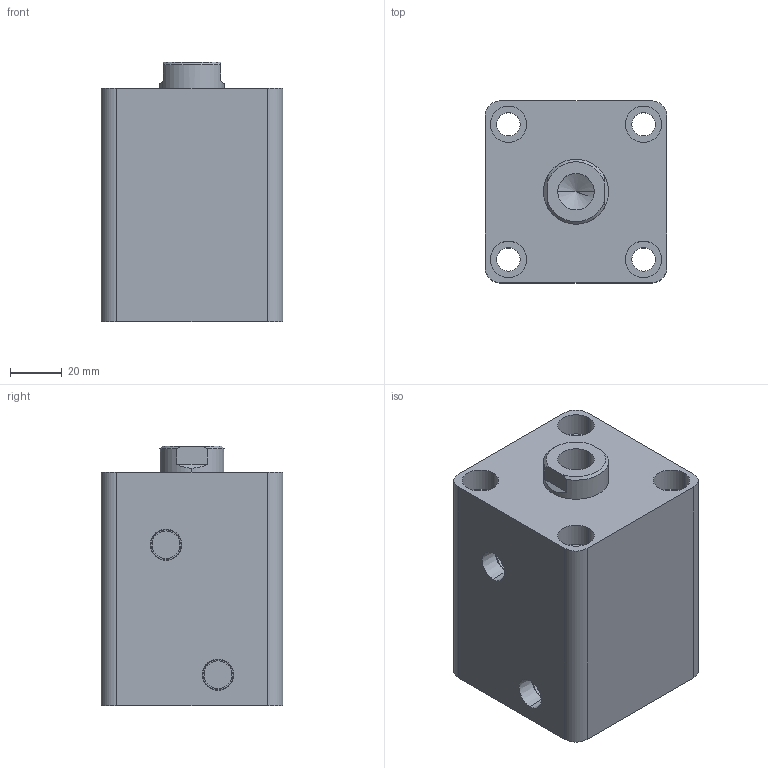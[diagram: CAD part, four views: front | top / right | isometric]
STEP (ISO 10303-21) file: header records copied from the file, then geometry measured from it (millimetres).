
FILE_DESCRIPTION (( 'STEP AP203' ), '1' );
FILE_NAME ('HTB-SD40-35N.STEP', '2019-10-07T06:50:17', ( '微软用户' ), ( '微软中国' ), 'SwSTEP 2.0', 'SolidWorks 2012', '' );
FILE_SCHEMA (( 'CONFIG_CONTROL_DESIGN' ));
Length unit declared in the file: millimetre
Products named in the file (3): HTB-SD40-35N活塞杆; HTB-SD40-35N; HTB-SD40-35掛极
Assembly tree (2 placements, depth 2):
  HTB-SD40-35N
    HTB-SD40-35掛极
    HTB-SD40-35N活塞杆
Bounding box: 70 x 70 x 100 mm (x, y, z)
Volume: 381469.4 mm3; surface area: 67025.3 mm2
Topology: 2 solids, 2 shells, 81 faces, 180 edges, 117 vertices
Faces by surface type: cylinder 42, plane 27, cone 8, torus 4
Entity records: 2603 total; most frequent: DIRECTION 444, CARTESIAN_POINT 409, ORIENTED_EDGE 356, AXIS2_PLACEMENT_3D 188, EDGE_CURVE 178, VERTEX_POINT 117, EDGE_LOOP 105, CIRCLE 102
